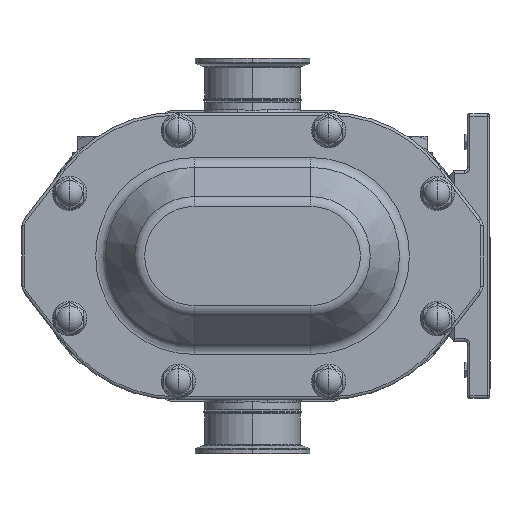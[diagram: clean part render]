
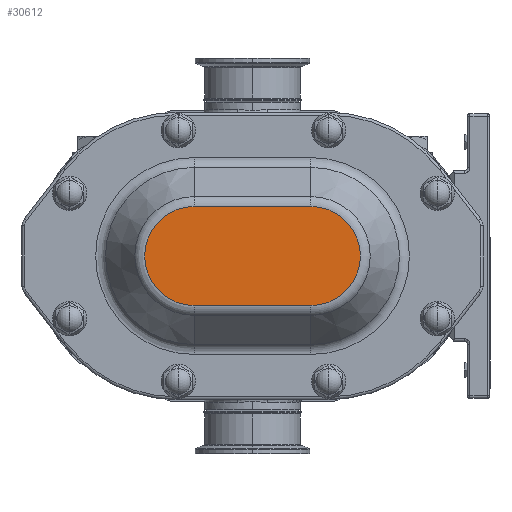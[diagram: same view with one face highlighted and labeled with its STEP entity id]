
A CAD part, left-side view. The second image highlights one B-rep face of the part: STEP entity #30612.
In plain terms, the highlighted planar face has unit normal (-1, 0, 0).
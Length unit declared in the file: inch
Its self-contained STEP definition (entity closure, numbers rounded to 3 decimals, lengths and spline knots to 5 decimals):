
#7745 = CARTESIAN_POINT ( 'NONE',  ( -4.426, 1.28, 1.08566 ) ) ;
#7746 = DIRECTION ( 'NONE',  ( 0., 1., 0. ) ) ;
#7747 = VECTOR ( 'NONE', #7746, 39.37008 ) ;
#7748 = CARTESIAN_POINT ( 'NONE',  ( -4.426, 1.28, 1.08566 ) ) ;
#7749 = LINE ( 'NONE', #7748, #7747 ) ;
#7805 = CARTESIAN_POINT ( 'NONE',  ( -4.426, 1.28, -1.08566 ) ) ;
#7806 = DIRECTION ( 'NONE',  ( 0., -1., 0. ) ) ;
#7807 = VECTOR ( 'NONE', #7806, 39.37008 ) ;
#7808 = CARTESIAN_POINT ( 'NONE',  ( -4.426, 1.28, -1.08566 ) ) ;
#7809 = LINE ( 'NONE', #7808, #7807 ) ;
#7814 = DIRECTION ( 'NONE',  ( 0., 0., -1. ) ) ;
#7815 = DIRECTION ( 'NONE',  ( 1., 0., 0. ) ) ;
#7816 = CARTESIAN_POINT ( 'NONE',  ( -4.426, 1.28, 0. ) ) ;
#7817 = AXIS2_PLACEMENT_3D ( 'NONE', #7816, #7815, #7814 ) ;
#7818 = PLANE ( 'NONE',  #7817 ) ;
#7823 = FACE_OUTER_BOUND ( 'NONE', #30613, .T. ) ;
#7862 = CARTESIAN_POINT ( 'NONE',  ( -4.426, -1.28, 1.08566 ) ) ;
#7863 = DIRECTION ( 'NONE',  ( 0., 0., -1. ) ) ;
#7864 = DIRECTION ( 'NONE',  ( -1., 0., 0. ) ) ;
#7865 = CARTESIAN_POINT ( 'NONE',  ( -4.426, -1.28, 0. ) ) ;
#7866 = AXIS2_PLACEMENT_3D ( 'NONE', #7865, #7864, #7863 ) ;
#7867 = CIRCLE ( 'NONE', #7866, 1.08566 ) ;
#7868 = CARTESIAN_POINT ( 'NONE',  ( -4.426, -1.28, -1.08566 ) ) ;
#7997 = CARTESIAN_POINT ( 'NONE',  ( -4.426, 1.28, 0. ) ) ;
#8055 = DIRECTION ( 'NONE',  ( 0., 0., -1. ) ) ;
#8056 = DIRECTION ( 'NONE',  ( -1., 0., 0. ) ) ;
#8057 = AXIS2_PLACEMENT_3D ( 'NONE', #7997, #8056, #8055 ) ;
#8058 = CIRCLE ( 'NONE', #8057, 1.08566 ) ;
#29468 = ORIENTED_EDGE ( 'NONE', *, *, #30762, .T. ) ;
#30578 = ORIENTED_EDGE ( 'NONE', *, *, #30579, .T. ) ;
#30579 = EDGE_CURVE ( 'NONE', #30621, #30580, #7749, .T. ) ;
#30580 = VERTEX_POINT ( 'NONE', #7745 ) ;
#30612 = ADVANCED_FACE ( 'NONE', ( #7823 ), #7818, .F. ) ;
#30613 = EDGE_LOOP ( 'NONE', ( #30615, #30619, #30578, #29468 ) ) ;
#30615 = ORIENTED_EDGE ( 'NONE', *, *, #30616, .T. ) ;
#30616 = EDGE_CURVE ( 'NONE', #30617, #30618, #7809, .T. ) ;
#30617 = VERTEX_POINT ( 'NONE', #7805 ) ;
#30618 = VERTEX_POINT ( 'NONE', #7868 ) ;
#30619 = ORIENTED_EDGE ( 'NONE', *, *, #30620, .T. ) ;
#30620 = EDGE_CURVE ( 'NONE', #30618, #30621, #7867, .T. ) ;
#30621 = VERTEX_POINT ( 'NONE', #7862 ) ;
#30762 = EDGE_CURVE ( 'NONE', #30580, #30617, #8058, .T. ) ;
